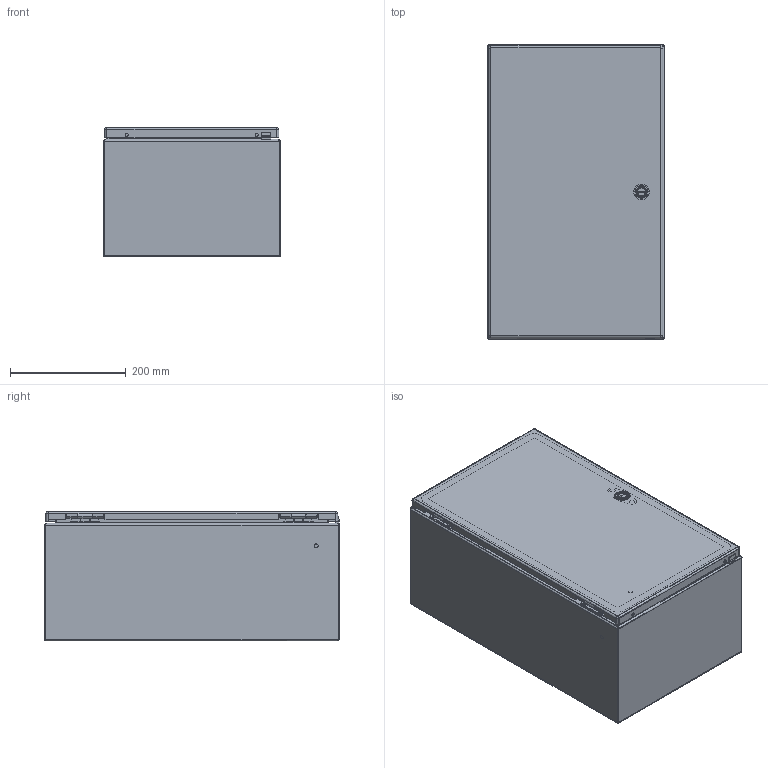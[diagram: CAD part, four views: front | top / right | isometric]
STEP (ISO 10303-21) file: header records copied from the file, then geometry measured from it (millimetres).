
FILE_DESCRIPTION (( 'STEP AP203' ), '1' );
FILE_NAME ('29394.step', '2015-03-30T06:05:21', ( '' ), ( '' ), 'SwSTEP 2.0', 'SolidWorks 2010', '' );
FILE_SCHEMA (( 'CONFIG_CONTROL_DESIGN' ));
Length unit declared in the file: inch
Products named in the file (24): 29394; 89116783; 89116782_default; 23271001_After Weld; 89116776_assy; 89116775_weldment; 89116774; 99401225; 64101001; 64201001; 87541994_Installed Height; 87541995; 64202001; 64210001; 64203001; 64138001; 89116779; 87543027; 87929507; 87929767; 87929769_Installed on Pin; 89076399; 89076193; 89056623
Assembly tree (30 placements, depth 4):
  29394
    87543027  x2
    89076399  x2
      89056623
      89076193
    87929507  x2
      87929769_Installed on Pin
      87929767
    89116783
      89116782_default
      23271001_After Weld  x4
      99401225
    89116776_assy
      64138001
      89116779
      89116775_weldment
        99401225
        89116774
      64101001
        64201001
        64203001
        64210001
        64202001
        87541995
        87541994_Installed Height
Bounding box: 304.8 x 508.5 x 223.9 mm (x, y, z)
Volume: 998215.5 mm3; surface area: 1506686.1 mm2
Topology: 27 solids, 27 shells, 1272 faces, 3105 edges, 1902 vertices
Faces by surface type: plane 536, cylinder 438, bspline 144, torus 92, cone 54, sphere 8
Entity records: 34315 total; most frequent: CARTESIAN_POINT 10006, ORIENTED_EDGE 4588, DIRECTION 4340, EDGE_CURVE 2294, AXIS2_PLACEMENT_3D 1540, VERTEX_POINT 1416, LINE 1260, VECTOR 1260
